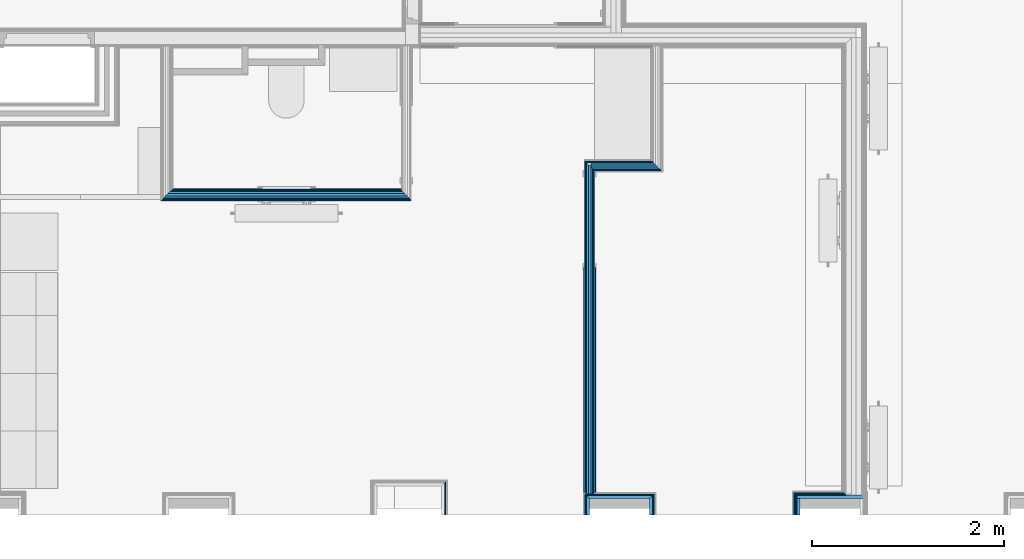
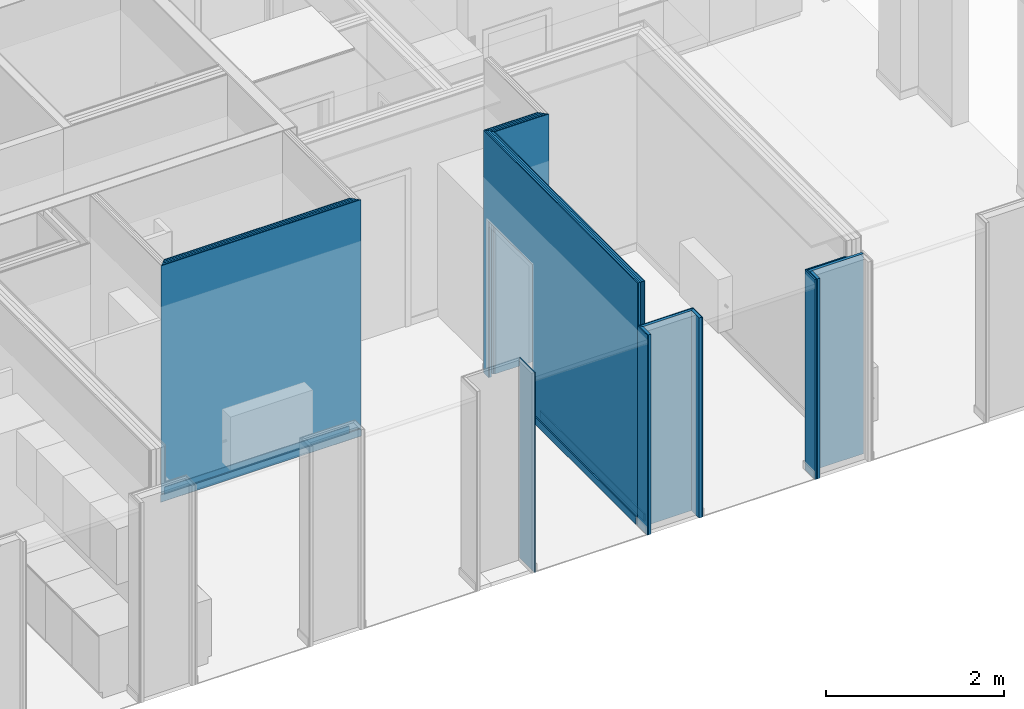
# One storey, part 18 of 64: 32 building element parts, 2 openings, 9 elements without a shape of their own.
"""IFC2X3 building model written with IfcOpenShell, lengths in metres."""

from ifc_helpers import new_model, entity, si_unit, converted_unit, derived_unit, money_unit, direction, frame, frame_2d, origin_with_axes, place, context, subcontext, project, spatial, polyline, rectangle, outline, extrude, material, type_object, element, aggregate, save


model = new_model("IFC2X3")

# Units and contexts
model_context = context("Model", 3, precision=1e-05, world=origin_with_axes(), true_north=direction((0.0, 1.0)))
body_context = subcontext(model_context, "Body", "Model", "MODEL_VIEW", scale=1.0)
ifc_project = project(units=[si_unit("LENGTHUNIT", "METRE"), si_unit("AREAUNIT", "SQUARE_METRE"), si_unit("VOLUMEUNIT", "CUBIC_METRE"), si_unit("ABSORBEDDOSEUNIT", "GRAY"), si_unit("AMOUNTOFSUBSTANCEUNIT", "MOLE"), si_unit("DOSEEQUIVALENTUNIT", "SIEVERT"), si_unit("ELECTRICCAPACITANCEUNIT", "FARAD"), si_unit("ELECTRICCHARGEUNIT", "COULOMB"), si_unit("ELECTRICCONDUCTANCEUNIT", "SIEMENS"), si_unit("ELECTRICCURRENTUNIT", "AMPERE"), si_unit("ELECTRICRESISTANCEUNIT", "OHM"), si_unit("ELECTRICVOLTAGEUNIT", "VOLT"), si_unit("ENERGYUNIT", "JOULE"), si_unit("FORCEUNIT", "NEWTON"), si_unit("FREQUENCYUNIT", "HERTZ"), si_unit("ILLUMINANCEUNIT", "LUX"), si_unit("INDUCTANCEUNIT", "HENRY"), si_unit("LUMINOUSFLUXUNIT", "LUMEN"), si_unit("LUMINOUSINTENSITYUNIT", "CANDELA"), si_unit("MAGNETICFLUXDENSITYUNIT", "TESLA"), si_unit("MAGNETICFLUXUNIT", "WEBER"), si_unit("MASSUNIT", "GRAM"), converted_unit("PLANEANGLEUNIT", "degree", entity("IfcReal", 0.0174532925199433), si_unit("PLANEANGLEUNIT", "RADIAN"), dimensions=[0, 0, 0, 0, 0, 0, 0]), si_unit("POWERUNIT", "WATT"), si_unit("PRESSUREUNIT", "PASCAL"), si_unit("RADIOACTIVITYUNIT", "BECQUEREL"), si_unit("SOLIDANGLEUNIT", "STERADIAN"), si_unit("THERMODYNAMICTEMPERATUREUNIT", "KELVIN"), si_unit("TIMEUNIT", "SECOND"), derived_unit("ACCELERATIONUNIT", [(si_unit("LENGTHUNIT", "METRE"), 1), (si_unit("TIMEUNIT", "SECOND"), -2)]), derived_unit("ANGULARVELOCITYUNIT", [(converted_unit("PLANEANGLEUNIT", "degree", entity("IfcReal", 0.0174532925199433), si_unit("PLANEANGLEUNIT", "RADIAN"), dimensions=[0, 0, 0, 0, 0, 0, 0]), 1), (si_unit("TIMEUNIT", "SECOND"), -1)]), derived_unit("CURVATUREUNIT", [(converted_unit("PLANEANGLEUNIT", "degree", entity("IfcReal", 0.0174532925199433), si_unit("PLANEANGLEUNIT", "RADIAN"), dimensions=[0, 0, 0, 0, 0, 0, 0]), 1), (si_unit("LENGTHUNIT", "METRE"), -1)]), derived_unit("DYNAMICVISCOSITYUNIT", [(si_unit("PRESSUREUNIT", "PASCAL"), 1), (si_unit("TIMEUNIT", "SECOND"), 1)]), derived_unit("HEATFLUXDENSITYUNIT", [(si_unit("POWERUNIT", "WATT"), 1), (si_unit("LENGTHUNIT", "METRE"), -2)]), derived_unit("HEATINGVALUEUNIT", [(si_unit("ENERGYUNIT", "JOULE"), 1), (si_unit("MASSUNIT", "GRAM"), -1)]), derived_unit("INTEGERCOUNTRATEUNIT", [(si_unit("TIMEUNIT", "SECOND"), -1)]), derived_unit("IONCONCENTRATIONUNIT", [(si_unit("MASSUNIT", "GRAM"), 1), (si_unit("VOLUMEUNIT", "CUBIC_METRE"), -1)]), derived_unit("ISOTHERMALMOISTURECAPACITYUNIT", [(si_unit("VOLUMEUNIT", "CUBIC_METRE"), 1), (si_unit("MASSUNIT", "GRAM"), -1)]), derived_unit("KINEMATICVISCOSITYUNIT", [(si_unit("AREAUNIT", "SQUARE_METRE"), 1), (si_unit("TIMEUNIT", "SECOND"), -1)]), derived_unit("LINEARFORCEUNIT", [(si_unit("FORCEUNIT", "NEWTON"), 1), (si_unit("LENGTHUNIT", "METRE"), -1)]), derived_unit("LINEARMOMENTUNIT", [(si_unit("FORCEUNIT", "NEWTON"), 1), (si_unit("LENGTHUNIT", "METRE"), -1)]), derived_unit("LINEARSTIFFNESSUNIT", [(si_unit("FORCEUNIT", "NEWTON"), 1), (si_unit("LENGTHUNIT", "METRE"), -1)]), derived_unit("LINEARVELOCITYUNIT", [(si_unit("LENGTHUNIT", "METRE"), 1), (si_unit("TIMEUNIT", "SECOND"), -1)]), derived_unit("LUMINOUSINTENSITYDISTRIBUTIONUNIT", [(si_unit("LUMINOUSINTENSITYUNIT", "CANDELA"), 1), (si_unit("LUMINOUSFLUXUNIT", "LUMEN"), -1)]), derived_unit("MASSDENSITYUNIT", [(si_unit("MASSUNIT", "GRAM"), 1), (si_unit("VOLUMEUNIT", "CUBIC_METRE"), -1)]), derived_unit("MASSFLOWRATEUNIT", [(si_unit("MASSUNIT", "GRAM"), 1), (si_unit("TIMEUNIT", "SECOND"), -1)]), derived_unit("MASSPERLENGTHUNIT", [(si_unit("MASSUNIT", "GRAM"), 1), (si_unit("LENGTHUNIT", "METRE"), -1)]), derived_unit("MODULUSOFELASTICITYUNIT", [(si_unit("FORCEUNIT", "NEWTON"), 1), (si_unit("AREAUNIT", "SQUARE_METRE"), -1)]), derived_unit("MODULUSOFLINEARSUBGRADEREACTIONUNIT", [(si_unit("FORCEUNIT", "NEWTON"), 1), (si_unit("LENGTHUNIT", "METRE"), -2)]), derived_unit("MODULUSOFROTATIONALSUBGRADEREACTIONUNIT", [(si_unit("FORCEUNIT", "NEWTON"), 1), (si_unit("LENGTHUNIT", "METRE"), 1)]), derived_unit("MODULUSOFSUBGRADEREACTIONUNIT", [(si_unit("FORCEUNIT", "NEWTON"), 1), (si_unit("VOLUMEUNIT", "CUBIC_METRE"), -1)]), derived_unit("MOISTUREDIFFUSIVITYUNIT", [(si_unit("VOLUMEUNIT", "CUBIC_METRE"), 1), (si_unit("TIMEUNIT", "SECOND"), -1)]), derived_unit("MOLECULARWEIGHTUNIT", [(si_unit("MASSUNIT", "GRAM"), 1), (si_unit("AMOUNTOFSUBSTANCEUNIT", "MOLE"), -1)]), derived_unit("PLANARFORCEUNIT", [(si_unit("FORCEUNIT", "NEWTON"), 1), (si_unit("LENGTHUNIT", "METRE"), -2)]), derived_unit("ROTATIONALFREQUENCYUNIT", [(si_unit("TIMEUNIT", "SECOND"), -1)]), derived_unit("ROTATIONALMASSUNIT", [(si_unit("MASSUNIT", "GRAM"), 1), (si_unit("LENGTHUNIT", "METRE"), 2)]), derived_unit("ROTATIONALSTIFFNESSUNIT", [(si_unit("FORCEUNIT", "NEWTON"), 1), (si_unit("LENGTHUNIT", "METRE"), 1), (converted_unit("PLANEANGLEUNIT", "degree", entity("IfcReal", 0.0174532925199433), si_unit("PLANEANGLEUNIT", "RADIAN"), dimensions=[0, 0, 0, 0, 0, 0, 0]), -1)]), derived_unit("SECTIONAREAINTEGRALUNIT", [(si_unit("LENGTHUNIT", "METRE"), 5)]), derived_unit("SECTIONMODULUSUNIT", [(si_unit("LENGTHUNIT", "METRE"), 3)]), derived_unit("SHEARMODULUSUNIT", [(si_unit("FORCEUNIT", "NEWTON"), 1), (si_unit("AREAUNIT", "SQUARE_METRE"), -1)]), derived_unit("SOUNDPOWERUNIT", [(si_unit("ENERGYUNIT", "JOULE"), 1), (si_unit("TIMEUNIT", "SECOND"), -1)]), derived_unit("SPECIFICHEATCAPACITYUNIT", [(si_unit("FORCEUNIT", "NEWTON"), 1), (si_unit("MASSUNIT", "GRAM"), -1), (si_unit("THERMODYNAMICTEMPERATUREUNIT", "KELVIN"), -1)]), derived_unit("TEMPERATUREGRADIENTUNIT", [(si_unit("THERMODYNAMICTEMPERATUREUNIT", "KELVIN"), 1), (si_unit("LENGTHUNIT", "METRE"), -1)]), derived_unit("THERMALADMITTANCEUNIT", [(si_unit("POWERUNIT", "WATT"), 1), (si_unit("AREAUNIT", "SQUARE_METRE"), -1), (si_unit("THERMODYNAMICTEMPERATUREUNIT", "KELVIN"), -1)]), derived_unit("THERMALCONDUCTANCEUNIT", [(si_unit("POWERUNIT", "WATT"), 1), (si_unit("LENGTHUNIT", "METRE"), -1), (si_unit("THERMODYNAMICTEMPERATUREUNIT", "KELVIN"), -1)]), derived_unit("THERMALEXPANSIONCOEFFICIENTUNIT", [(si_unit("THERMODYNAMICTEMPERATUREUNIT", "KELVIN"), -1)]), derived_unit("THERMALRESISTANCEUNIT", [(si_unit("AREAUNIT", "SQUARE_METRE"), 1), (si_unit("POWERUNIT", "WATT"), -1)]), derived_unit("THERMALTRANSMITTANCEUNIT", [(si_unit("POWERUNIT", "WATT"), 1), (si_unit("AREAUNIT", "SQUARE_METRE"), -1), (si_unit("THERMODYNAMICTEMPERATUREUNIT", "KELVIN"), -1)]), derived_unit("TORQUEUNIT", [(si_unit("FORCEUNIT", "NEWTON"), 1), (si_unit("LENGTHUNIT", "METRE"), 1)]), derived_unit("VAPORPERMEABILITYUNIT", [(si_unit("MASSUNIT", "GRAM"), 1), (si_unit("TIMEUNIT", "SECOND"), -1)]), derived_unit("VOLUMETRICFLOWRATEUNIT", [(si_unit("VOLUMEUNIT", "CUBIC_METRE"), 1), (si_unit("TIMEUNIT", "SECOND"), -1)]), derived_unit("WARPINGCONSTANTUNIT", [(si_unit("LENGTHUNIT", "METRE"), 6)]), derived_unit("WARPINGMOMENTUNIT", [(si_unit("FORCEUNIT", "NEWTON"), 1), (si_unit("LENGTHUNIT", "METRE"), 2)]), money_unit("GBP")], contexts=[model_context])

# Site, building, storey
site_placement = place(None, origin_with_axes())
site = spatial("IfcSite", under=ifc_project, at=site_placement, Name="Site", CompositionType="ELEMENT")
building_placement = place(site_placement, origin_with_axes())
building = spatial("IfcBuilding", under=site, at=building_placement, Name="Building01", CompositionType="ELEMENT")
storey_placement = place(building_placement, frame((0.0, 0.0, 8.64), z_axis=(0.0, 0.0, 1.0), x_axis=(1.0, 0.0, 0.0)))
storey = spatial("IfcBuildingStorey", under=building, at=storey_placement, Name="2F", CompositionType="ELEMENT", Elevation=8.64)

# Wall, building element part
wall_type_1 = type_object("IfcWallType", Name="SHE_A-Walls_Type06d_ExternalWallInsulation_48mm", PredefinedType="NOTDEFINED")
wall_1_placement = place(storey_placement, frame((18.22, 0.4, 0.0), z_axis=(0.0, 0.0, 1.0), x_axis=(0.0, -1.0, 0.0)))
wall_1 = element("IfcWall", 1, at=wall_1_placement, inside=storey, type_object=wall_type_1, Name="6D", ObjectType="SHE_A-Walls_Type06d_ExternalWallInsulation_48mm")
ifc_material_1 = material(Name="A_BSUK_WallInternal_Finishes_Plasterboard")
building_element_part_1_placement = place(wall_1_placement, origin_with_axes())
building_element_part_1 = element("IfcBuildingElementPart", 2, at=building_element_part_1_placement, material=ifc_material_1, Name="2", context=body_context, shape_type="SweptSolid", body=[
    extrude(outline(polyline([(-0.048, 0.048), (-0.035, 0.035), (0.3, 0.035), (0.3, 0.048), (-0.048, 0.048)])), origin_with_axes(), (0.0, 0.0, 1.0), 2.74),
])
aggregate(wall_1, [building_element_part_1])

# Wall, building element parts
wall_2_placement = place(storey_placement, frame((19.763, 0.1, 0.0), z_axis=(0.0, 0.0, 1.0), x_axis=(0.0, 1.0, 0.0)))
wall_2 = element("IfcWall", 3, at=wall_2_placement, inside=storey, type_object=wall_type_1, Name="6D", ObjectType="SHE_A-Walls_Type06d_ExternalWallInsulation_48mm")
ifc_material_2 = material(Name="A_BSUK_Insulation")
placement_1 = place(wall_2_placement, origin_with_axes())
building_element_part_2 = element("IfcBuildingElementPart", 4, at=placement_1, material=ifc_material_2, Name="1", context=body_context, shape_type="SweptSolid", body=[
    extrude(outline(polyline([(0.206, 0.036), (0.0, 0.036), (0.0, 0.0), (0.17, 0.0), (0.206, 0.036)])), origin_with_axes(), (0.0, 0.0, 1.0), 2.74),
])
building_element_part_3 = element("IfcBuildingElementPart", 5, at=placement_1, material=ifc_material_1, Name="2", context=body_context, shape_type="SweptSolid", body=[
    extrude(outline(polyline([(0.218, 0.048), (0.0, 0.048), (0.0, 0.035), (0.205, 0.035), (0.218, 0.048)])), origin_with_axes(), (0.0, 0.0, 1.0), 2.74),
])
aggregate(wall_2, [building_element_part_2, building_element_part_3])

wall_3_placement = place(storey_placement, frame((20.387, 0.27, 0.0), z_axis=(0.0, 0.0, 1.0), x_axis=(0.0, -1.0, 0.0)))
wall_3 = element("IfcWall", 6, at=wall_3_placement, inside=storey, type_object=wall_type_1, Name="6D", ObjectType="SHE_A-Walls_Type06d_ExternalWallInsulation_48mm")
placement_2 = place(wall_3_placement, origin_with_axes())
building_element_part_4 = element("IfcBuildingElementPart", 7, at=placement_2, material=ifc_material_2, Name="1", context=body_context, shape_type="SweptSolid", body=[
    extrude(outline(polyline([(-0.036, 0.036), (0.0, 0.0), (0.17, 0.0), (0.17, 0.036), (-0.036, 0.036)])), origin_with_axes(), (0.0, 0.0, 1.0), 2.74),
])
building_element_part_5 = element("IfcBuildingElementPart", 8, at=placement_2, material=ifc_material_1, Name="2", context=body_context, shape_type="SweptSolid", body=[
    extrude(outline(polyline([(-0.048, 0.048), (-0.035, 0.035), (0.17, 0.035), (0.17, 0.048), (-0.048, 0.048)])), origin_with_axes(), (0.0, 0.0, 1.0), 2.74),
])
aggregate(wall_3, [building_element_part_4, building_element_part_5])

# Wall, openings, building element parts
wall_type_2 = type_object("IfcWallType", Name="SHE_A-Walls_Type05a_Partition_95mm_tall", PredefinedType="NOTDEFINED")
wall_4_placement = place(storey_placement, frame((19.75, 3.745, 0.0), z_axis=(0.0, 0.0, 1.0), x_axis=(0.0, -1.0, 0.0)))
wall_4 = element("IfcWall", 9, at=wall_4_placement, inside=storey, type_object=wall_type_2, Name="5A", ObjectType="SHE_A-Walls_Type05a_Partition_95mm_tall")
opening_1_placement = place(wall_4_placement, frame((0.087, -0.035, 0.0), z_axis=(0.0, 0.0, 1.0), x_axis=(1.0, 0.0, 0.0)))
element("IfcOpeningElement", 10, at=opening_1_placement, cuts=wall_4, Name="Opening", ObjectType="Recess", context=body_context, shape_type="SweptSolid", body=[
    extrude(rectangle(XDim=2.142, YDim=0.984, at=frame_2d((-0.492, 1.071), x_axis=(0.0, 1.0))), frame((0.0, 0.0, 0.0), z_axis=(0.0, 1.0, 0.0), x_axis=(-1.0, 0.0, 0.0)), (0.0, 0.0, 1.0), 0.035),
])
opening_2_placement = place(wall_4_placement, frame((0.099, -0.05, 0.0), z_axis=(0.0, 0.0, 1.0), x_axis=(1.0, 0.0, 0.0)))
element("IfcOpeningElement", 11, at=opening_2_placement, cuts=wall_4, Name="Opening", ObjectType="Opening", context=body_context, shape_type="SweptSolid", body=[
    extrude(rectangle(XDim=0.9, YDim=2.127, at=frame_2d((-0.45, 1.0635), x_axis=(-1.0, 0.0))), frame((0.0, 0.0, 0.0), z_axis=(0.0, 1.0, 0.0), x_axis=(-1.0, 0.0, 0.0)), (0.0, 0.0, 1.0), 0.125),
    extrude(rectangle(XDim=0.9, YDim=2.142, at=frame_2d((-0.45, 1.056), x_axis=(-1.0, 0.0))), frame((0.0, 0.015, 0.0), z_axis=(0.0, 1.0, 0.0), x_axis=(-1.0, 0.0, 0.0)), (0.0, 0.0, 1.0), 0.012),
    extrude(rectangle(XDim=2.142, YDim=0.984, at=frame_2d((-0.48, 1.071), x_axis=(0.0, -1.0))), frame((0.0, 0.0, 0.0), z_axis=(0.0, 1.0, 0.0), x_axis=(-1.0, 0.0, 0.0)), (0.0, 0.0, 1.0), 0.015),
    extrude(rectangle(XDim=0.9, YDim=2.142, at=frame_2d((-0.45, 1.056), x_axis=(-1.0, 0.0))), frame((0.0, 0.027, 0.0), z_axis=(0.0, 1.0, 0.0), x_axis=(-1.0, 0.0, 0.0)), (0.0, 0.0, 1.0), 0.023),
    extrude(outline(polyline([(0.012, 2.127), (0.012, 2.142), (-0.972, 2.142), (-0.972, 0.0), (-0.494219, 0.0), (-0.494219, -0.015), (0.589781, -0.015), (0.589781, 2.127), (0.012, 2.127)])), frame((0.0, 0.05, 0.0), z_axis=(0.0, 1.0, 0.0), x_axis=(-1.0, 0.0, 0.0)), (0.0, 0.0, 1.0), 0.025),
    extrude(outline(polyline([(0.012, 2.127), (0.012, 2.142), (-0.972, 2.142), (-0.972, 0.0), (-0.494219, 0.0), (-0.494219, -0.015), (0.589781, -0.015), (0.589781, 2.127), (0.012, 2.127)])), frame((0.0, 0.075, 0.0), z_axis=(0.0, 1.0, 0.0), x_axis=(-1.0, 0.0, 0.0)), (0.0, 0.0, 1.0), 0.023),
    extrude(outline(polyline([(-0.972, 2.142), (-0.972, 0.0), (-0.9, 0.0), (-0.9, -0.015), (0.0, -0.015), (0.0, 0.0), (0.589781, 0.0), (0.589781, 2.142), (-0.972, 2.142)])), frame((0.0, 0.098, 0.0), z_axis=(0.0, 1.0, 0.0), x_axis=(-1.0, 0.0, 0.0)), (0.0, 0.0, 1.0), 0.012),
    extrude(rectangle(XDim=2.142, YDim=0.984, at=frame_2d((-0.48, 1.071), x_axis=(0.0, -1.0))), frame((0.0, 0.11, 0.0), z_axis=(0.0, 1.0, 0.0), x_axis=(-1.0, 0.0, 0.0)), (0.0, 0.0, 1.0), 0.015),
])
ifc_material_3 = material(Name="A_BSUK_Walls_Timber")
placement_3 = place(wall_4_placement, origin_with_axes())
building_element_part_6 = element("IfcBuildingElementPart", 12, at=placement_3, material=ifc_material_3, Name="1", context=body_context, shape_type="SweptSolid", body=[
    extrude(rectangle(XDim=2.344, YDim=0.015, at=frame_2d((2.24, -0.0425), x_axis=(-1.0, 0.0))), frame((0.0, 0.0, 0.015), z_axis=(0.0, 0.0, 1.0), x_axis=(1.0, 0.0, 0.0)), (0.0, 0.0, 1.0), 0.1),
])
building_element_part_7 = element("IfcBuildingElementPart", 13, at=placement_3, material=ifc_material_1, Name="2", context=body_context, shape_type="SweptSolid", body=[
    extrude(outline(polyline([(3.427, -0.023), (-0.023, -0.023), (-0.035, -0.035), (3.427, -0.035), (3.427, -0.023)])), origin_with_axes(), (0.0, 0.0, 1.0), 3.32),
])
ifc_material_4 = material(Name="Air Cavity")
building_element_part_8 = element("IfcBuildingElementPart", 14, at=placement_3, material=ifc_material_4, Name="3", context=body_context, shape_type="SweptSolid", body=[
    extrude(outline(polyline([(3.427, 0.0), (0.0, 0.0), (-0.023, -0.023), (3.427, -0.023), (3.427, 0.0)])), origin_with_axes(), (0.0, 0.0, 1.0), 3.32),
])
building_element_part_9 = element("IfcBuildingElementPart", 15, at=placement_3, material=ifc_material_2, Name="4", context=body_context, shape_type="SweptSolid", body=[
    extrude(rectangle(XDim=3.427, YDim=0.025, at=frame_2d((1.7135, 0.0125), x_axis=(-1.0, 0.0))), origin_with_axes(), (0.0, 0.0, 1.0), 3.32),
])
building_element_part_10 = element("IfcBuildingElementPart", 16, at=placement_3, material=ifc_material_4, Name="5", context=body_context, shape_type="SweptSolid", body=[
    extrude(rectangle(XDim=3.427, YDim=0.023, at=frame_2d((1.7135, 0.0365), x_axis=(-1.0, 0.0))), origin_with_axes(), (0.0, 0.0, 1.0), 3.32),
])
building_element_part_11 = element("IfcBuildingElementPart", 17, at=placement_3, material=ifc_material_1, Name="6", context=body_context, shape_type="SweptSolid", body=[
    extrude(outline(polyline([(3.427, 0.06), (0.06, 0.06), (0.048, 0.048), (3.427, 0.048), (3.427, 0.06)])), origin_with_axes(), (0.0, 0.0, 1.0), 3.32),
])
building_element_part_12 = element("IfcBuildingElementPart", 18, at=placement_3, material=ifc_material_3, Name="7", context=body_context, shape_type="SweptSolid", body=[
    extrude(rectangle(XDim=2.344, YDim=0.015, at=frame_2d((2.24, 0.0675), x_axis=(-1.0, 0.0))), frame((0.0, 0.0, 0.015), z_axis=(0.0, 0.0, 1.0), x_axis=(1.0, 0.0, 0.0)), (0.0, 0.0, 1.0), 0.1),
])
aggregate(wall_4, [building_element_part_6, building_element_part_7, building_element_part_8, building_element_part_9, building_element_part_10, building_element_part_11, building_element_part_12])

# Wall, building element parts
wall_5_placement = place(storey_placement, frame((19.775, 3.72, 0.0), z_axis=(0.0, 0.0, 1.0), x_axis=(1.0, 0.0, 0.0)))
wall_5 = element("IfcWall", 19, at=wall_5_placement, inside=storey, type_object=wall_type_2, Name="5A", ObjectType="SHE_A-Walls_Type05a_Partition_95mm_tall")
placement_4 = place(wall_5_placement, origin_with_axes())
building_element_part_13 = element("IfcBuildingElementPart", 20, at=placement_4, material=ifc_material_1, Name="2", context=body_context, shape_type="SweptSolid", body=[
    extrude(outline(polyline([(0.723, -0.023), (0.023, -0.023), (0.035, -0.035), (0.735, -0.035), (0.723, -0.023)])), origin_with_axes(), (0.0, 0.0, 1.0), 3.32),
])
building_element_part_14 = element("IfcBuildingElementPart", 21, at=placement_4, material=ifc_material_4, Name="3", context=body_context, shape_type="SweptSolid", body=[
    extrude(outline(polyline([(0.7, 0.0), (0.0, 0.0), (0.023, -0.023), (0.723, -0.023), (0.7, 0.0)])), origin_with_axes(), (0.0, 0.0, 1.0), 3.32),
])
building_element_part_15 = element("IfcBuildingElementPart", 22, at=placement_4, material=ifc_material_2, Name="4", context=body_context, shape_type="SweptSolid", body=[
    extrude(outline(polyline([(0.675, 0.025), (0.0, 0.025), (0.0, 0.0), (0.7, 0.0), (0.675, 0.025)])), origin_with_axes(), (0.0, 0.0, 1.0), 3.32),
])
building_element_part_16 = element("IfcBuildingElementPart", 23, at=placement_4, material=ifc_material_4, Name="5", context=body_context, shape_type="SweptSolid", body=[
    extrude(outline(polyline([(0.652, 0.048), (0.0, 0.048), (0.0, 0.025), (0.675, 0.025), (0.652, 0.048)])), origin_with_axes(), (0.0, 0.0, 1.0), 3.32),
])
building_element_part_17 = element("IfcBuildingElementPart", 24, at=placement_4, material=ifc_material_1, Name="6", context=body_context, shape_type="SweptSolid", body=[
    extrude(outline(polyline([(0.64, 0.06), (-0.06, 0.06), (-0.048, 0.048), (0.652, 0.048), (0.64, 0.06)])), origin_with_axes(), (0.0, 0.0, 1.0), 3.32),
])
aggregate(wall_5, [building_element_part_13, building_element_part_14, building_element_part_15, building_element_part_16, building_element_part_17])

wall_6_placement = place(storey_placement, frame((19.763, 0.27, 0.0), z_axis=(0.0, 0.0, 1.0), x_axis=(1.0, 0.0, 0.0)))
wall_6 = element("IfcWall", 25, at=wall_6_placement, inside=storey, type_object=wall_type_1, Name="6D", ObjectType="SHE_A-Walls_Type06d_ExternalWallInsulation_48mm")
placement_5 = place(wall_6_placement, origin_with_axes())
building_element_part_18 = element("IfcBuildingElementPart", 26, at=placement_5, material=ifc_material_2, Name="1", context=body_context, shape_type="SweptSolid", body=[
    extrude(outline(polyline([(0.66, 0.036), (-0.036, 0.036), (0.0, 0.0), (0.624, 0.0), (0.66, 0.036)])), origin_with_axes(), (0.0, 0.0, 1.0), 2.74),
])
building_element_part_19 = element("IfcBuildingElementPart", 27, at=placement_5, material=ifc_material_1, Name="2", context=body_context, shape_type="SweptSolid", body=[
    extrude(outline(polyline([(0.672, 0.048), (-0.048, 0.048), (-0.035, 0.035), (0.659, 0.035), (0.672, 0.048)])), origin_with_axes(), (0.0, 0.0, 1.0), 2.74),
])
aggregate(wall_6, [building_element_part_18, building_element_part_19])

wall_7_placement = place(storey_placement, frame((17.8675, 3.42, 0.0), z_axis=(0.0, 0.0, 1.0), x_axis=(-1.0, 0.0, 0.0)))
wall_7 = element("IfcWall", 28, at=wall_7_placement, inside=storey, type_object=wall_type_2, Name="5A", ObjectType="SHE_A-Walls_Type05a_Partition_95mm_tall")
placement_6 = place(wall_7_placement, origin_with_axes())
building_element_part_20 = element("IfcBuildingElementPart", 29, at=placement_6, material=ifc_material_3, Name="1", context=body_context, shape_type="SweptSolid", body=[
    extrude(outline(polyline([(2.46, -0.06), (0.06, -0.06), (0.06, -0.075), (2.445, -0.075), (2.46, -0.06)])), frame((0.0, 0.0, 0.015), z_axis=(0.0, 0.0, 1.0), x_axis=(1.0, 0.0, 0.0)), (0.0, 0.0, 1.0), 0.1),
])
building_element_part_21 = element("IfcBuildingElementPart", 30, at=placement_6, material=ifc_material_1, Name="2", context=body_context, shape_type="SweptSolid", body=[
    extrude(outline(polyline([(2.472, -0.048), (0.048, -0.048), (0.06, -0.06), (2.46, -0.06), (2.472, -0.048)])), origin_with_axes(), (0.0, 0.0, 1.0), 3.24),
])
building_element_part_22 = element("IfcBuildingElementPart", 31, at=placement_6, material=ifc_material_4, Name="3", context=body_context, shape_type="SweptSolid", body=[
    extrude(outline(polyline([(2.495, -0.025), (0.025, -0.025), (0.048, -0.048), (2.472, -0.048), (2.495, -0.025)])), origin_with_axes(), (0.0, 0.0, 1.0), 3.24),
])
building_element_part_23 = element("IfcBuildingElementPart", 32, at=placement_6, material=ifc_material_2, Name="4", context=body_context, shape_type="SweptSolid", body=[
    extrude(outline(polyline([(2.52, 0.0), (0.0, 0.0), (0.025, -0.025), (2.495, -0.025), (2.52, 0.0)])), origin_with_axes(), (0.0, 0.0, 1.0), 3.24),
])
building_element_part_24 = element("IfcBuildingElementPart", 33, at=placement_6, material=ifc_material_4, Name="5", context=body_context, shape_type="SweptSolid", body=[
    extrude(outline(polyline([(2.543, 0.023), (-0.023, 0.023), (0.0, 0.0), (2.52, 0.0), (2.543, 0.023)])), origin_with_axes(), (0.0, 0.0, 1.0), 3.24),
])
building_element_part_25 = element("IfcBuildingElementPart", 34, at=placement_6, material=ifc_material_1, Name="6", context=body_context, shape_type="SweptSolid", body=[
    extrude(outline(polyline([(2.555, 0.035), (-0.035, 0.035), (-0.023, 0.023), (2.543, 0.023), (2.555, 0.035)])), origin_with_axes(), (0.0, 0.0, 1.0), 3.24),
])
building_element_part_26 = element("IfcBuildingElementPart", 35, at=placement_6, material=ifc_material_3, Name="7", context=body_context, shape_type="SweptSolid", body=[
    extrude(outline(polyline([(2.57, 0.05), (-0.035, 0.05), (-0.035, 0.035), (2.555, 0.035), (2.57, 0.05)])), frame((0.0, 0.0, 0.015), z_axis=(0.0, 0.0, 1.0), x_axis=(1.0, 0.0, 0.0)), (0.0, 0.0, 1.0), 0.1),
])
aggregate(wall_7, [building_element_part_20, building_element_part_21, building_element_part_22, building_element_part_23, building_element_part_24, building_element_part_25, building_element_part_26])

wall_type_3 = type_object("IfcWallType", Name="SHE_A-Walls_Type06f_ExternalWallInsulation_48+15mm", PredefinedType="NOTDEFINED")
wall_8_placement = place(storey_placement, frame((21.953, 0.27, 0.0), z_axis=(0.0, 0.0, 1.0), x_axis=(0.0, 1.0, 0.0)))
wall_8 = element("IfcWall", 36, at=wall_8_placement, inside=storey, type_object=wall_type_3, Name="6F", ObjectType="SHE_A-Walls_Type06f_ExternalWallInsulation_48+15mm")
placement_7 = place(wall_8_placement, origin_with_axes())
building_element_part_27 = element("IfcBuildingElementPart", 37, at=placement_7, material=ifc_material_2, Name="1", context=body_context, shape_type="SweptSolid", body=[
    extrude(rectangle(XDim=0.17, YDim=0.036, at=frame_2d((-0.085, 0.018), x_axis=(1.0, 0.0))), origin_with_axes(), (0.0, 0.0, 1.0), 2.74),
])
building_element_part_28 = element("IfcBuildingElementPart", 38, at=placement_7, material=ifc_material_1, Name="2", context=body_context, shape_type="SweptSolid", body=[
    extrude(rectangle(XDim=0.206, YDim=0.012, at=frame_2d((-0.067, 0.042), x_axis=(1.0, 0.0))), origin_with_axes(), (0.0, 0.0, 1.0), 2.74),
])
building_element_part_29 = element("IfcBuildingElementPart", 39, at=placement_7, material=ifc_material_1, Name="3", context=body_context, shape_type="SweptSolid", body=[
    extrude(outline(polyline([(-0.17, 0.048), (0.048, 0.048), (0.063, 0.063), (-0.17, 0.063), (-0.17, 0.048)])), origin_with_axes(), (0.0, 0.0, 1.0), 2.74),
])
aggregate(wall_8, [building_element_part_27, building_element_part_28, building_element_part_29])

wall_9_placement = place(storey_placement, frame((22.613124, 0.27, 0.0), z_axis=(0.0, 0.0, 1.0), x_axis=(1.0, 0.0, 0.0)))
wall_9 = element("IfcWall", 40, at=wall_9_placement, inside=storey, type_object=wall_type_3, Name="6F", ObjectType="SHE_A-Walls_Type06f_ExternalWallInsulation_48+15mm")
placement_8 = place(wall_9_placement, origin_with_axes())
building_element_part_30 = element("IfcBuildingElementPart", 41, at=placement_8, material=ifc_material_2, Name="1", context=body_context, shape_type="SweptSolid", body=[
    extrude(rectangle(XDim=0.696124, YDim=0.036, at=frame_2d((-0.348062, 0.018), x_axis=(1.0, 0.0))), origin_with_axes(), (0.0, 0.0, 1.0), 2.74),
])
building_element_part_31 = element("IfcBuildingElementPart", 42, at=placement_8, material=ifc_material_1, Name="2", context=body_context, shape_type="SweptSolid", body=[
    extrude(rectangle(XDim=0.525, YDim=0.012, at=frame_2d((-0.445624, 0.042), x_axis=(1.0, 0.0))), origin_with_axes(), (0.0, 0.0, 1.0), 2.74),
])
building_element_part_32 = element("IfcBuildingElementPart", 43, at=placement_8, material=ifc_material_1, Name="5", context=body_context, shape_type="SweptSolid", body=[
    extrude(outline(polyline([(-0.708124, 0.048), (-0.198124, 0.048), (-0.198124, 0.063), (-0.723124, 0.063), (-0.708124, 0.048)])), origin_with_axes(), (0.0, 0.0, 1.0), 2.74),
])
aggregate(wall_9, [building_element_part_30, building_element_part_31, building_element_part_32])

save(model, "model.ifc")
